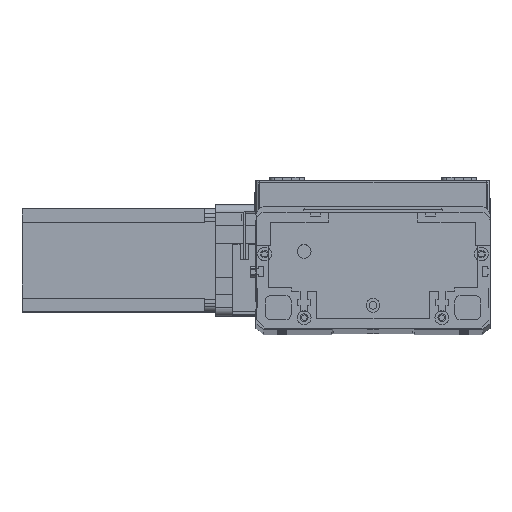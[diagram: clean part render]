
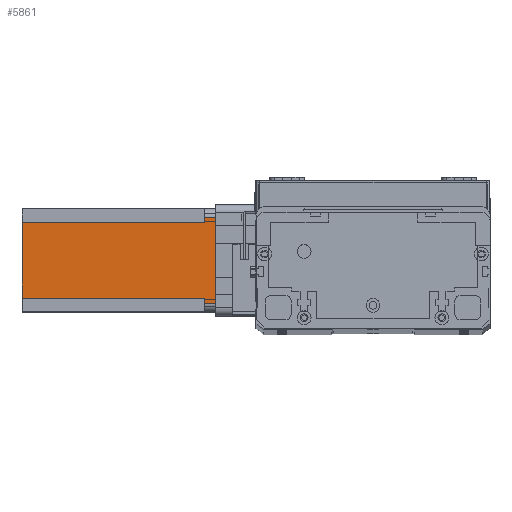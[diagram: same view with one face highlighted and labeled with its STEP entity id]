
A CAD part, top view. The second image highlights one B-rep face of the part: STEP entity #5861.
In plain terms, the highlighted planar face has unit normal (0, 0, 1) as drawn and (0, -1, 0) by its records, which use the part's own axes.
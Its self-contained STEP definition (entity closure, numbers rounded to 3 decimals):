
#583 = DIRECTION ( 'NONE',  ( 0., 0., 1. ) ) ;
#619 = CARTESIAN_POINT ( 'NONE',  ( 55., 0., -112.5 ) ) ;
#899 = ORIENTED_EDGE ( 'NONE', *, *, #2822, .F. ) ;
#1219 = VERTEX_POINT ( 'NONE', #3839 ) ;
#2258 = VERTEX_POINT ( 'NONE', #12074 ) ;
#2375 = EDGE_CURVE ( 'NONE', #16416, #1219, #13873, .T. ) ;
#2504 = CARTESIAN_POINT ( 'NONE',  ( 5., 0., -6.5 ) ) ;
#2621 = EDGE_CURVE ( 'NONE', #1219, #18069, #6777, .T. ) ;
#2730 = EDGE_CURVE ( 'NONE', #2258, #17937, #13844, .T. ) ;
#2822 = EDGE_CURVE ( 'NONE', #16613, #17937, #18075, .T. ) ;
#2977 = EDGE_CURVE ( 'NONE', #21115, #16613, #14824, .T. ) ;
#3276 = DIRECTION ( 'NONE',  ( 0., 0., -1. ) ) ;
#3509 = ORIENTED_EDGE ( 'NONE', *, *, #2977, .F. ) ;
#3634 = ORIENTED_EDGE ( 'NONE', *, *, #25083, .F. ) ;
#3839 = CARTESIAN_POINT ( 'NONE',  ( 55., 0., -6.5 ) ) ;
#3955 = CARTESIAN_POINT ( 'NONE',  ( 52., 0., -112.5 ) ) ;
#5861 = ADVANCED_FACE ( 'NONE', ( #10000 ), #9033, .T. ) ;
#6777 = LINE ( 'NONE', #619, #21898 ) ;
#7553 = AXIS2_PLACEMENT_3D ( 'NONE', #9267, #8961, #8989 ) ;
#7618 = DIRECTION ( 'NONE',  ( 1., 0., 0. ) ) ;
#7762 = VECTOR ( 'NONE', #8326, 1000. ) ;
#8326 = DIRECTION ( 'NONE',  ( 1., 0., 0. ) ) ;
#8353 = CARTESIAN_POINT ( 'NONE',  ( 8., 0., -112.5 ) ) ;
#8365 = VECTOR ( 'NONE', #22598, 1000. ) ;
#8472 = CARTESIAN_POINT ( 'NONE',  ( 52., 0., -6.5 ) ) ;
#8514 = LINE ( 'NONE', #23695, #23581 ) ;
#8961 = DIRECTION ( 'NONE',  ( 0., -1., 0. ) ) ;
#8989 = DIRECTION ( 'NONE',  ( 0., 0., -1. ) ) ;
#9033 = PLANE ( 'NONE',  #7553 ) ;
#9267 = CARTESIAN_POINT ( 'NONE',  ( 0., 0., -112.5 ) ) ;
#9575 = CARTESIAN_POINT ( 'NONE',  ( 52., 0., -6.5 ) ) ;
#9891 = EDGE_CURVE ( 'NONE', #16416, #21769, #8514, .T. ) ;
#10000 = FACE_OUTER_BOUND ( 'NONE', #17212, .T. ) ;
#10945 = CARTESIAN_POINT ( 'NONE',  ( 0., 0., -112.5 ) ) ;
#12033 = ORIENTED_EDGE ( 'NONE', *, *, #16173, .T. ) ;
#12074 = CARTESIAN_POINT ( 'NONE',  ( 5., 0., 0. ) ) ;
#12194 = ORIENTED_EDGE ( 'NONE', *, *, #2375, .T. ) ;
#13676 = LINE ( 'NONE', #10945, #14335 ) ;
#13844 = LINE ( 'NONE', #25476, #8365 ) ;
#13873 = LINE ( 'NONE', #8472, #7762 ) ;
#14335 = VECTOR ( 'NONE', #25199, 1000. ) ;
#14644 = CARTESIAN_POINT ( 'NONE',  ( 8., 0., -6.5 ) ) ;
#14824 = LINE ( 'NONE', #21233, #24988 ) ;
#14838 = DIRECTION ( 'NONE',  ( -1., 0., 0. ) ) ;
#16173 = EDGE_CURVE ( 'NONE', #21115, #21769, #13676, .T. ) ;
#16340 = CARTESIAN_POINT ( 'NONE',  ( 8., 0., -6.5 ) ) ;
#16416 = VERTEX_POINT ( 'NONE', #9575 ) ;
#16613 = VERTEX_POINT ( 'NONE', #16340 ) ;
#17212 = EDGE_LOOP ( 'NONE', ( #12194, #18228, #3634, #19372, #899, #3509, #12033, #24754 ) ) ;
#17937 = VERTEX_POINT ( 'NONE', #2504 ) ;
#18069 = VERTEX_POINT ( 'NONE', #19222 ) ;
#18075 = LINE ( 'NONE', #14644, #22806 ) ;
#18228 = ORIENTED_EDGE ( 'NONE', *, *, #2621, .T. ) ;
#19012 = DIRECTION ( 'NONE',  ( 0., 0., 1. ) ) ;
#19222 = CARTESIAN_POINT ( 'NONE',  ( 55., 0., 0. ) ) ;
#19372 = ORIENTED_EDGE ( 'NONE', *, *, #2730, .T. ) ;
#21115 = VERTEX_POINT ( 'NONE', #8353 ) ;
#21189 = LINE ( 'NONE', #24003, #25892 ) ;
#21233 = CARTESIAN_POINT ( 'NONE',  ( 8., 0., -112.5 ) ) ;
#21769 = VERTEX_POINT ( 'NONE', #3955 ) ;
#21898 = VECTOR ( 'NONE', #583, 1000. ) ;
#22598 = DIRECTION ( 'NONE',  ( 0., 0., -1. ) ) ;
#22806 = VECTOR ( 'NONE', #14838, 1000. ) ;
#23581 = VECTOR ( 'NONE', #3276, 1000. ) ;
#23695 = CARTESIAN_POINT ( 'NONE',  ( 52., 0., -112.5 ) ) ;
#24003 = CARTESIAN_POINT ( 'NONE',  ( 0., 0., 0. ) ) ;
#24754 = ORIENTED_EDGE ( 'NONE', *, *, #9891, .F. ) ;
#24988 = VECTOR ( 'NONE', #19012, 1000. ) ;
#25083 = EDGE_CURVE ( 'NONE', #2258, #18069, #21189, .T. ) ;
#25199 = DIRECTION ( 'NONE',  ( 1., 0., 0. ) ) ;
#25476 = CARTESIAN_POINT ( 'NONE',  ( 5., 0., -112.5 ) ) ;
#25892 = VECTOR ( 'NONE', #7618, 1000. ) ;
